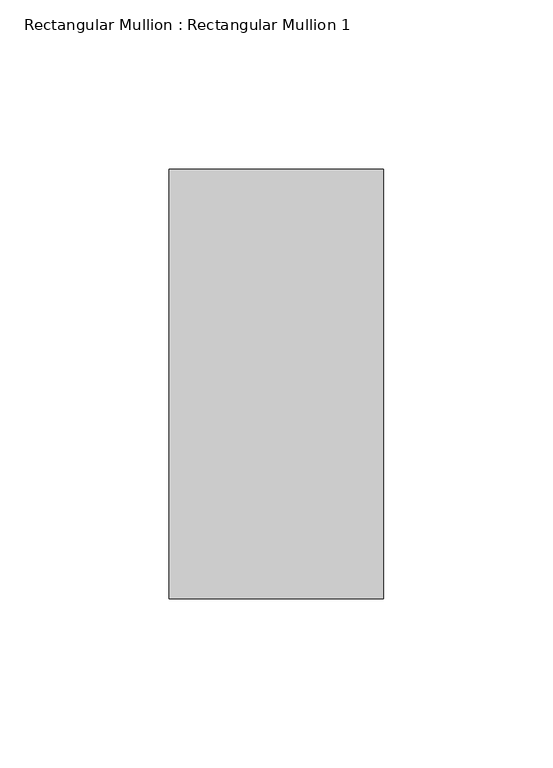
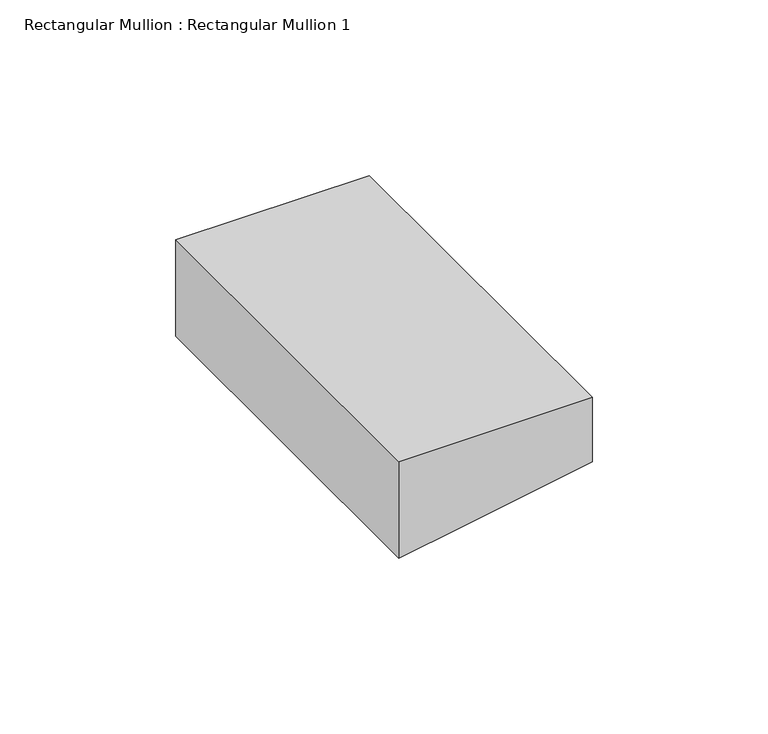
"""IFC4 building model written with IfcOpenShell, lengths in millimetres: member geometry, Rectangular Mullion : Rectangular Mullion 1."""

from ifc_helpers import new_model, si_unit, frame, origin, place, context, project, spatial, polyline, outline, extrude, source, transform, mapped, element, save


def rectangular_mullion_rectangular_mullion_1_6016acf9(model_context):
    return source(origin(), model_context, "Body", "SweptSolid", [
        extrude(outline(polyline([(0.0, 31.75), (0.0, -31.75), (-33.5558491, -31.75), (-29.901765, -11.0266593), (-22.3590858, 31.75), (0.0, 31.75)])), frame((0.0, -63.5, 0.0), z_axis=(0.0, 1.0, 0.0), x_axis=(0.0, 0.0, 1.0)), (0.0, 0.0, 1.0), 127.0),
    ])


if __name__ == "__main__":
    model = new_model("IFC4")
    model_context = context("Model", 3, world=origin())
    ifc_project = project(units=[si_unit("LENGTHUNIT", "METRE", prefix="MILLI")], contexts=[model_context])
    site = spatial("IfcSite", under=ifc_project)
    building = spatial("IfcBuilding", under=site)
    placement = place(None, origin())
    rectangular_mullion_rectangular_mullion_1_shape = rectangular_mullion_rectangular_mullion_1_6016acf9(model_context)
    element("IfcMember", 1, ObjectType="Rectangular Mullion : Rectangular Mullion 1", at=placement, inside=building, context=model_context, shape_type="MappedRepresentation", body=[
        mapped(rectangular_mullion_rectangular_mullion_1_shape, transform((0.0, 0.0, 0.0), x_axis=(1.0, 0.0, 0.0), y_axis=(0.0, 1.0, 0.0), z_axis=(0.0, 0.0, 1.0))),
    ])
    save(model, "model.ifc")
